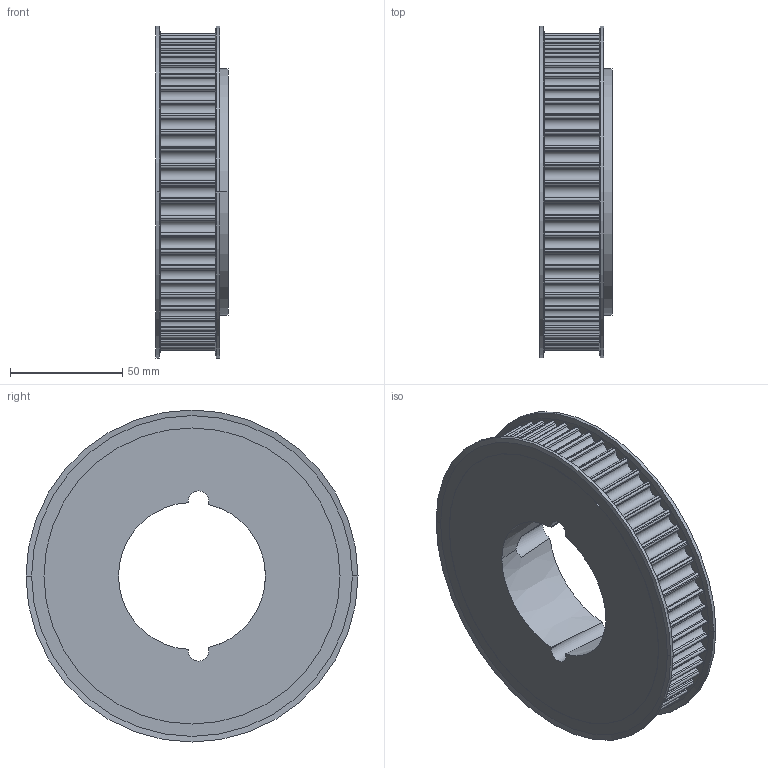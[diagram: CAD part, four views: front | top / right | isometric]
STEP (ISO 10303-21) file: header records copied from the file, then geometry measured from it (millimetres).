
FILE_DESCRIPTION( ( '' ), '1' );
FILE_NAME( 'C:/Users/Stangenbergd/Documents/CAD_Step/1/17477128.stp', '2021-10-19T10:16:57', ( '' ), ( '' ), ' ', ' ', ' ' );
FILE_SCHEMA( ( 'CONFIG_CONTROL_DESIGN' ) );
Length unit declared in the file: millimetre
Products named in the file (1): 1
Bounding box: 32.2 x 148 x 148 mm (x, y, z)
Volume: 339487.9 mm3; surface area: 58351.9 mm2
Topology: 1 solids, 1 shells, 375 faces, 1094 edges, 726 vertices
Faces by surface type: cylinder 242, plane 119, cone 14
Entity records: 12788 total; most frequent: CARTESIAN_POINT 2336, DIRECTION 2330, ORIENTED_EDGE 2188, EDGE_CURVE 1094, AXIS2_PLACEMENT_3D 872, VERTEX_POINT 726, LINE 586, VECTOR 586
